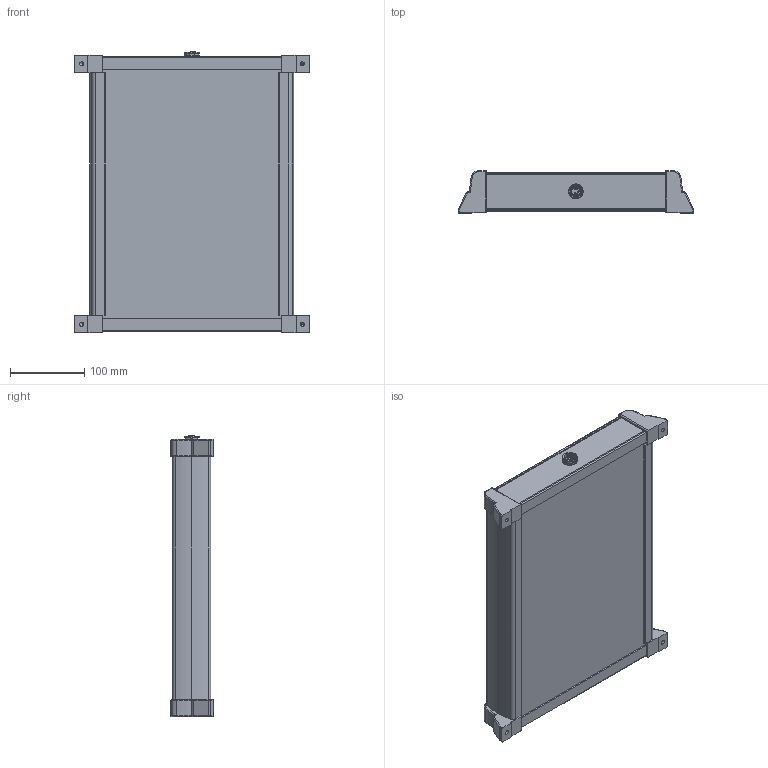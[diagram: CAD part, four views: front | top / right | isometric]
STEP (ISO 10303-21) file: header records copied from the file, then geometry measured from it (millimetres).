
FILE_DESCRIPTION (( 'STEP AP214' ), '1' );
FILE_NAME ('L1008.STEP', '2021-03-15T10:42:15', ( '' ), ( '' ), 'SwSTEP 2.0', 'SolidWorks 2021', '' );
FILE_SCHEMA (( 'AUTOMOTIVE_DESIGN' ));
Length unit declared in the file: millimetre
Products named in the file (3): L1G001008-einfach; 09_0315_80_05; L1008
Assembly tree (2 placements, depth 2):
  L1008
    L1G001008-einfach
    09_0315_80_05
Bounding box: 317 x 57 x 380.5 mm (x, y, z)
Volume: 4997325.5 mm3; surface area: 283600.9 mm2
Topology: 2 solids, 2 shells, 381 faces, 943 edges, 561 vertices
Faces by surface type: cylinder 146, plane 115, cone 48, torus 47, bspline 21, sphere 4
Entity records: 12845 total; most frequent: CARTESIAN_POINT 3774, DIRECTION 1968, ORIENTED_EDGE 1842, EDGE_CURVE 921, AXIS2_PLACEMENT_3D 756, VERTEX_POINT 561, LINE 456, VECTOR 456
